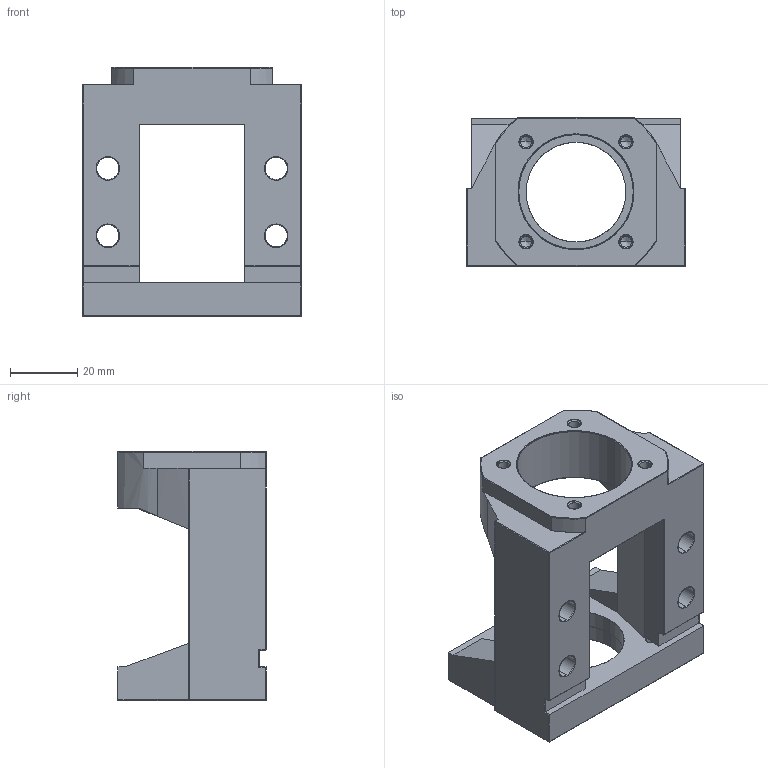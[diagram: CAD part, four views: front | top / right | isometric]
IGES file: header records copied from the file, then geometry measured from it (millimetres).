
Start section: SolidWorks IGES file using analytic representation for surfaces
Global section: file name: C:\Users\117\Desktop\1061208網站3D圖檔問題處理\傳動座\外露型\MBA\MBA10-A.IGS,15HSolidWorks; native system: 2017; preprocessor: SolidWorks 2017; author: 117; date: 171228.135915; units: millimetre
Bounding box: 65 x 44 x 74 mm (x, y, z)
Surface area: 24049.7 mm2 (no closed solid volume)
Topology: 0 solids, 0 shells, 207 faces, 2388 edges, 2366 vertices
Faces by surface type: revolution 126, bspline 81
